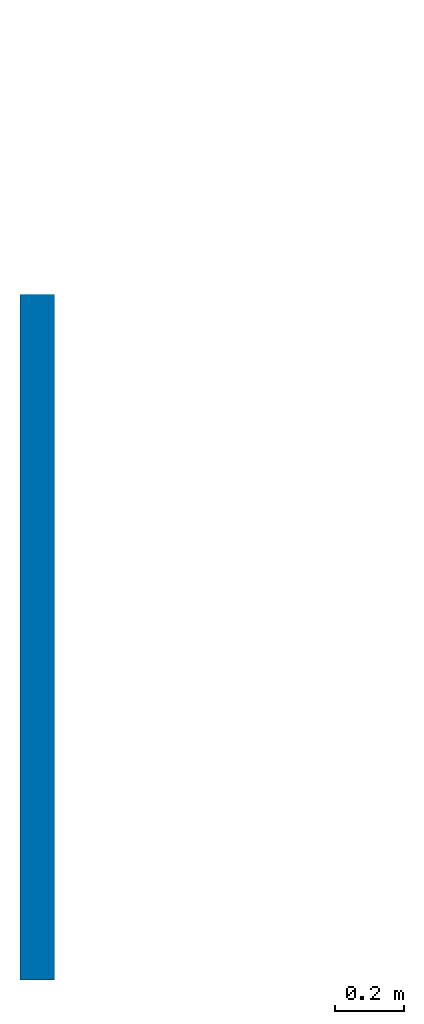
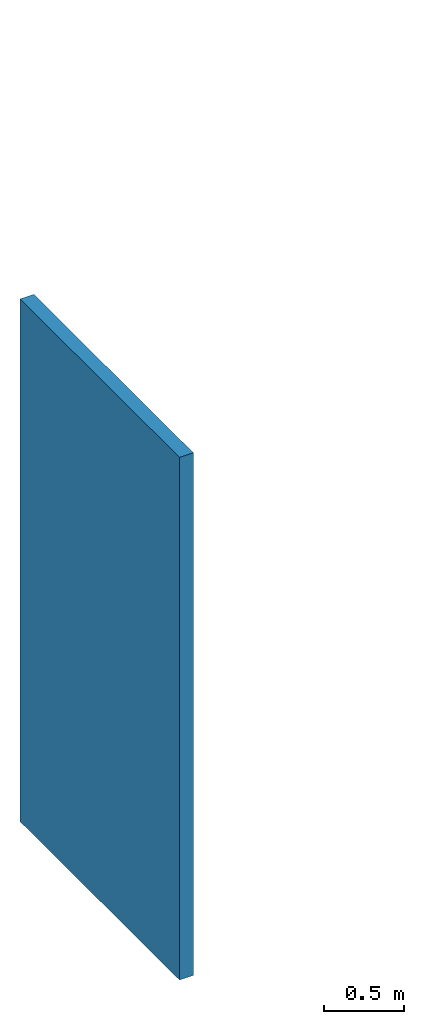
# One storey, part 1 of 2: 1 wall.
"""IFC2X3 building model written with IfcOpenShell, lengths in millimetres."""

from ifc_helpers import new_model, entity, si_unit, converted_unit, derived_unit, direction, frame, frame_2d, origin, place, context, subcontext, project, spatial, rectangle, extrude, material, layer, layer_set, layer_usage, type_object, element, save


model = new_model("IFC2X3")

# Units and contexts
model_context = context("Model", 3, precision=0.01, world=origin(), true_north=direction((6.12303176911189e-17, 1.0)))
body_context = subcontext(model_context, "Body", "Model", "MODEL_VIEW")
ifc_project = project(units=[si_unit("LENGTHUNIT", "METRE", prefix="MILLI"), si_unit("AREAUNIT", "SQUARE_METRE"), si_unit("VOLUMEUNIT", "CUBIC_METRE"), converted_unit("PLANEANGLEUNIT", "DEGREE", entity("IfcRatioMeasure", 0.0174532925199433), si_unit("PLANEANGLEUNIT", "RADIAN"), dimensions=[0, 0, 0, 0, 0, 0, 0]), si_unit("MASSUNIT", "GRAM", prefix="KILO"), derived_unit("MASSDENSITYUNIT", [(si_unit("MASSUNIT", "GRAM", prefix="KILO"), 1), (si_unit("LENGTHUNIT", "METRE"), -3)]), derived_unit("MOMENTOFINERTIAUNIT", [(si_unit("LENGTHUNIT", "METRE"), 4)]), si_unit("TIMEUNIT", "SECOND"), si_unit("FREQUENCYUNIT", "HERTZ"), si_unit("THERMODYNAMICTEMPERATUREUNIT", "DEGREE_CELSIUS"), derived_unit("THERMALTRANSMITTANCEUNIT", [(si_unit("MASSUNIT", "GRAM", prefix="KILO"), 1), (si_unit("THERMODYNAMICTEMPERATUREUNIT", "KELVIN"), -1), (si_unit("TIMEUNIT", "SECOND"), -3)]), derived_unit("VOLUMETRICFLOWRATEUNIT", [(si_unit("LENGTHUNIT", "METRE"), 3), (si_unit("TIMEUNIT", "SECOND"), -1)]), si_unit("ELECTRICCURRENTUNIT", "AMPERE"), si_unit("ELECTRICVOLTAGEUNIT", "VOLT"), si_unit("POWERUNIT", "WATT"), si_unit("FORCEUNIT", "NEWTON", prefix="KILO"), si_unit("ILLUMINANCEUNIT", "LUX"), si_unit("LUMINOUSFLUXUNIT", "LUMEN"), si_unit("LUMINOUSINTENSITYUNIT", "CANDELA"), derived_unit("USERDEFINED", [(si_unit("MASSUNIT", "GRAM", prefix="KILO"), -1), (si_unit("LENGTHUNIT", "METRE"), -2), (si_unit("TIMEUNIT", "SECOND"), 3), (si_unit("LUMINOUSFLUXUNIT", "LUMEN"), 1)]), derived_unit("LINEARVELOCITYUNIT", [(si_unit("LENGTHUNIT", "METRE"), 1), (si_unit("TIMEUNIT", "SECOND"), -1)]), si_unit("PRESSUREUNIT", "PASCAL"), derived_unit("USERDEFINED", [(si_unit("LENGTHUNIT", "METRE"), -2), (si_unit("MASSUNIT", "GRAM", prefix="KILO"), 1), (si_unit("TIMEUNIT", "SECOND"), -2)]), derived_unit("LINEARFORCEUNIT", [(si_unit("MASSUNIT", "GRAM", prefix="KILO"), 1), (si_unit("LENGTHUNIT", "METRE"), 1), (si_unit("TIMEUNIT", "SECOND"), -2), (si_unit("LENGTHUNIT", "METRE"), -1)]), derived_unit("PLANARFORCEUNIT", [(si_unit("MASSUNIT", "GRAM", prefix="KILO"), 1), (si_unit("LENGTHUNIT", "METRE"), 1), (si_unit("TIMEUNIT", "SECOND"), -2), (si_unit("LENGTHUNIT", "METRE"), -2)])], contexts=[model_context])

# Site, building, storey
site_placement = place(None, origin())
site = spatial("IfcSite", under=ifc_project, at=site_placement, Name="Default", CompositionType="ELEMENT")
building_placement = place(site_placement, origin())
building = spatial("IfcBuilding", under=site, at=building_placement, CompositionType="ELEMENT")
storey_placement = place(building_placement, origin())
storey = spatial("IfcBuildingStorey", under=building, at=storey_placement, Name="Level 1", CompositionType="ELEMENT", Elevation=0.0)

# Wall
ifc_material = material(Name="Default Wall")
ifc_layer = layer(ifc_material, 100.0)
ifc_layer_set = layer_set([ifc_layer], Name="Basic Wall:Generic - 100mm")
ifc_layer_usage = layer_usage(ifc_layer_set, "AXIS2", "NEGATIVE", 50.0)
wall_type = type_object("IfcWallType", Name="Basic Wall:Generic - 100mm", PredefinedType="STANDARD", material=ifc_layer_set)
wall_placement = place(storey_placement, frame((50.0, 0.0, 0.0), z_axis=(0.0, 0.0, 1.0), x_axis=(0.0, -1.0, 0.0)))
element("IfcWallStandardCase", 1, at=wall_placement, inside=storey, type_object=wall_type, material=ifc_layer_usage, Name="Basic Wall:Generic - 100mm", ObjectType="Basic Wall:Generic - 100mm", context=body_context, shape_type="SweptSolid", body=[
    extrude(rectangle(XDim=2000.0, YDim=100.0, at=frame_2d((1000.0, 0.0), x_axis=(-1.0, 0.0))), origin(), (0.0, 0.0, 1.0), 4000.0),
])

save(model, "model.ifc")
